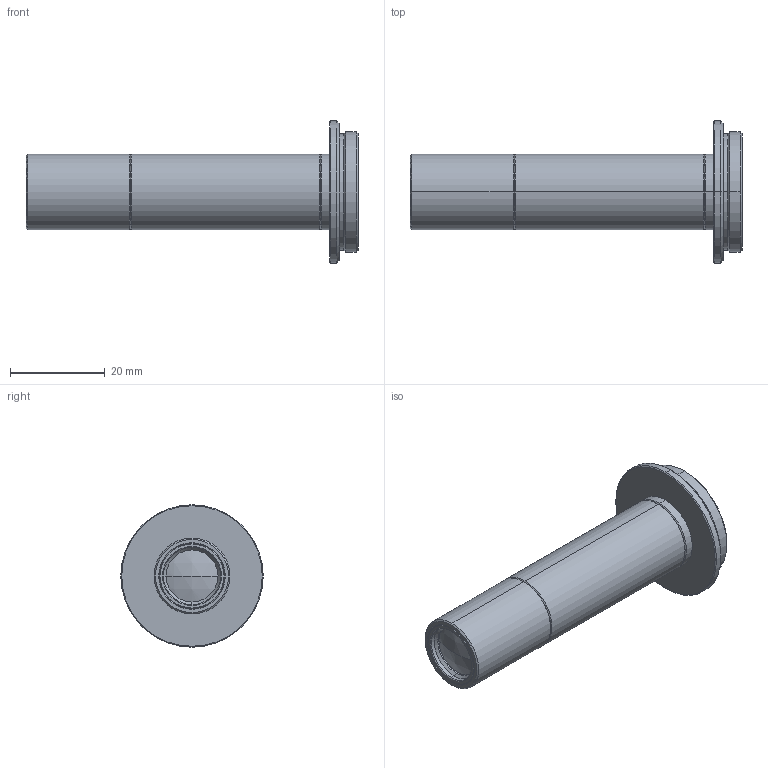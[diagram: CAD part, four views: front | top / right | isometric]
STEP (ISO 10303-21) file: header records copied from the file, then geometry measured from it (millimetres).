
FILE_DESCRIPTION (( 'STEP AP203' ), '1' );
FILE_NAME ('VS-MC075-100.STEP', '2014-06-19T04:35:58', ( '' ), ( '' ), 'SwSTEP 2.0', 'SolidWorks 2014', '' );
FILE_SCHEMA (( 'CONFIG_CONTROL_DESIGN' ));
Length unit declared in the file: millimetre
Products named in the file (1): VS-MC075-100
Bounding box: 69.95 x 30 x 30 mm (x, y, z)
Volume: 8699.9 mm3; surface area: 7591.2 mm2
Topology: 1 solids, 1 shells, 96 faces, 194 edges, 112 vertices
Faces by surface type: cone 50, cylinder 30, plane 12, sphere 4
Entity records: 2573 total; most frequent: DIRECTION 502, CARTESIAN_POINT 403, ORIENTED_EDGE 388, AXIS2_PLACEMENT_3D 211, EDGE_CURVE 194, CIRCLE 114, VERTEX_POINT 112, EDGE_LOOP 108
